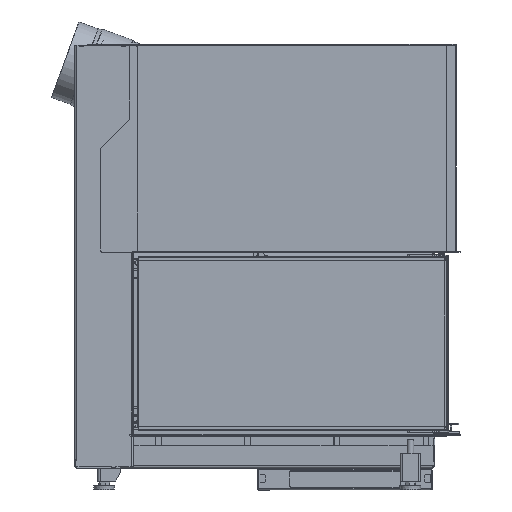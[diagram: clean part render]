
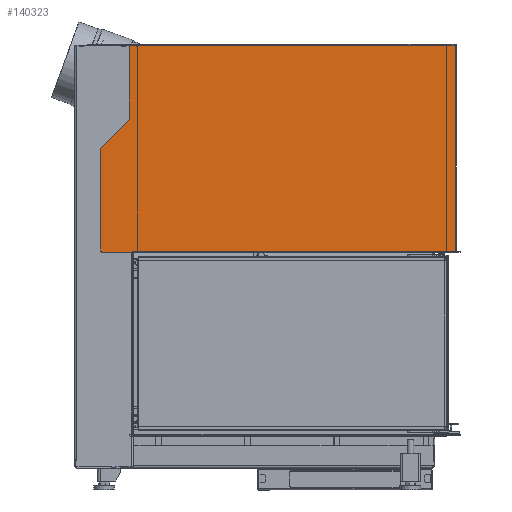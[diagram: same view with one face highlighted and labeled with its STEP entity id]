
A CAD part, left-side view. The second image highlights one B-rep face of the part: STEP entity #140323.
In plain terms, the highlighted planar face has unit normal (-1, 0, 0).
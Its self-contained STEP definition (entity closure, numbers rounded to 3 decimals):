
#2716=CIRCLE('',#149081,3.);
#2717=CIRCLE('',#149082,1.);
#2718=CIRCLE('',#149083,0.1);
#2719=CIRCLE('',#149084,3.);
#2720=CIRCLE('',#149085,3.);
#2721=CIRCLE('',#149086,0.1);
#2722=CIRCLE('',#149087,3.);
#2723=CIRCLE('',#149088,3.);
#7767=PLANE('',#149080);
#16175=FACE_OUTER_BOUND('',#23909,.T.);
#23909=EDGE_LOOP('',(#100494,#100495,#100496,#100497,#100498,#100499,#100500,
#100501,#100502,#100503,#100504,#100505,#100506,#100507,#100508,#100509,
#100510,#100511,#100512));
#33736=LINE('',#211772,#47788);
#33737=LINE('',#211776,#47789);
#33738=LINE('',#211780,#47790);
#33739=LINE('',#211782,#47791);
#33740=LINE('',#211784,#47792);
#33741=LINE('',#211788,#47793);
#33742=LINE('',#211794,#47794);
#33743=LINE('',#211796,#47795);
#33744=LINE('',#211798,#47796);
#33745=LINE('',#211802,#47797);
#33746=LINE('',#211805,#47798);
#47788=VECTOR('',#166727,10.);
#47789=VECTOR('',#166730,10.);
#47790=VECTOR('',#166733,10.);
#47791=VECTOR('',#166734,10.);
#47792=VECTOR('',#166735,10.);
#47793=VECTOR('',#166738,10.);
#47794=VECTOR('',#166743,10.);
#47795=VECTOR('',#166744,10.);
#47796=VECTOR('',#166745,10.);
#47797=VECTOR('',#166748,10.);
#47798=VECTOR('',#166751,10.);
#61975=VERTEX_POINT('',#211768);
#61976=VERTEX_POINT('',#211769);
#61977=VERTEX_POINT('',#211771);
#61978=VERTEX_POINT('',#211773);
#61979=VERTEX_POINT('',#211775);
#61980=VERTEX_POINT('',#211777);
#61981=VERTEX_POINT('',#211779);
#61982=VERTEX_POINT('',#211781);
#61983=VERTEX_POINT('',#211783);
#61984=VERTEX_POINT('',#211785);
#61985=VERTEX_POINT('',#211787);
#61986=VERTEX_POINT('',#211789);
#61987=VERTEX_POINT('',#211791);
#61988=VERTEX_POINT('',#211793);
#61989=VERTEX_POINT('',#211795);
#61990=VERTEX_POINT('',#211797);
#61991=VERTEX_POINT('',#211799);
#61992=VERTEX_POINT('',#211801);
#61993=VERTEX_POINT('',#211803);
#76435=EDGE_CURVE('',#61975,#61976,#2716,.T.);
#76436=EDGE_CURVE('',#61977,#61975,#33736,.T.);
#76437=EDGE_CURVE('',#61978,#61977,#2717,.T.);
#76438=EDGE_CURVE('',#61978,#61979,#33737,.T.);
#76439=EDGE_CURVE('',#61979,#61980,#2718,.T.);
#76440=EDGE_CURVE('',#61980,#61981,#33738,.T.);
#76441=EDGE_CURVE('',#61981,#61982,#33739,.T.);
#76442=EDGE_CURVE('',#61982,#61983,#33740,.T.);
#76443=EDGE_CURVE('',#61984,#61983,#2719,.T.);
#76444=EDGE_CURVE('',#61985,#61984,#33741,.T.);
#76445=EDGE_CURVE('',#61986,#61985,#2720,.T.);
#76446=EDGE_CURVE('',#61986,#61987,#2721,.T.);
#76447=EDGE_CURVE('',#61987,#61988,#33742,.T.);
#76448=EDGE_CURVE('',#61989,#61988,#33743,.T.);
#76449=EDGE_CURVE('',#61990,#61989,#33744,.T.);
#76450=EDGE_CURVE('',#61991,#61990,#2722,.T.);
#76451=EDGE_CURVE('',#61991,#61992,#33745,.T.);
#76452=EDGE_CURVE('',#61993,#61992,#2723,.T.);
#76453=EDGE_CURVE('',#61993,#61976,#33746,.T.);
#100494=ORIENTED_EDGE('',*,*,#76435,.F.);
#100495=ORIENTED_EDGE('',*,*,#76436,.F.);
#100496=ORIENTED_EDGE('',*,*,#76437,.F.);
#100497=ORIENTED_EDGE('',*,*,#76438,.T.);
#100498=ORIENTED_EDGE('',*,*,#76439,.T.);
#100499=ORIENTED_EDGE('',*,*,#76440,.T.);
#100500=ORIENTED_EDGE('',*,*,#76441,.T.);
#100501=ORIENTED_EDGE('',*,*,#76442,.T.);
#100502=ORIENTED_EDGE('',*,*,#76443,.F.);
#100503=ORIENTED_EDGE('',*,*,#76444,.F.);
#100504=ORIENTED_EDGE('',*,*,#76445,.F.);
#100505=ORIENTED_EDGE('',*,*,#76446,.T.);
#100506=ORIENTED_EDGE('',*,*,#76447,.T.);
#100507=ORIENTED_EDGE('',*,*,#76448,.F.);
#100508=ORIENTED_EDGE('',*,*,#76449,.F.);
#100509=ORIENTED_EDGE('',*,*,#76450,.F.);
#100510=ORIENTED_EDGE('',*,*,#76451,.T.);
#100511=ORIENTED_EDGE('',*,*,#76452,.F.);
#100512=ORIENTED_EDGE('',*,*,#76453,.T.);
#140323=ADVANCED_FACE('',(#16175),#7767,.T.);
#149080=AXIS2_PLACEMENT_3D('',#211767,#166723,#166724);
#149081=AXIS2_PLACEMENT_3D('',#211770,#166725,#166726);
#149082=AXIS2_PLACEMENT_3D('',#211774,#166728,#166729);
#149083=AXIS2_PLACEMENT_3D('',#211778,#166731,#166732);
#149084=AXIS2_PLACEMENT_3D('',#211786,#166736,#166737);
#149085=AXIS2_PLACEMENT_3D('',#211790,#166739,#166740);
#149086=AXIS2_PLACEMENT_3D('',#211792,#166741,#166742);
#149087=AXIS2_PLACEMENT_3D('',#211800,#166746,#166747);
#149088=AXIS2_PLACEMENT_3D('',#211804,#166749,#166750);
#166723=DIRECTION('center_axis',(-1.,0.,0.));
#166724=DIRECTION('ref_axis',(0.,-1.,0.));
#166725=DIRECTION('center_axis',(1.,0.,0.));
#166726=DIRECTION('ref_axis',(0.,0.707,-0.707));
#166727=DIRECTION('',(0.,1.,0.));
#166728=DIRECTION('center_axis',(1.,0.,0.));
#166729=DIRECTION('ref_axis',(0.,-0.707,-0.707));
#166730=DIRECTION('',(0.,0.,1.));
#166731=DIRECTION('center_axis',(1.,0.,0.));
#166732=DIRECTION('ref_axis',(0.,-1.,0.));
#166733=DIRECTION('',(0.,0.,-1.));
#166734=DIRECTION('',(0.,-1.,0.));
#166735=DIRECTION('',(0.,0.,1.));
#166736=DIRECTION('center_axis',(1.,0.,0.));
#166737=DIRECTION('ref_axis',(0.,-0.707,
0.707));
#166738=DIRECTION('',(0.,-1.,0.));
#166739=DIRECTION('center_axis',(1.,0.,0.));
#166740=DIRECTION('ref_axis',(0.,0.,
-1.));
#166741=DIRECTION('center_axis',(1.,0.,0.));
#166742=DIRECTION('ref_axis',(0.,1.,0.));
#166743=DIRECTION('',(0.,0.,1.));
#166744=DIRECTION('',(0.,-1.,0.));
#166745=DIRECTION('',(0.,0.,1.));
#166746=DIRECTION('center_axis',(-1.,0.,0.));
#166747=DIRECTION('ref_axis',(0.,-0.924,-0.383));
#166748=DIRECTION('',(0.,0.707,-0.707));
#166749=DIRECTION('center_axis',(1.,0.,0.));
#166750=DIRECTION('ref_axis',(0.,0.924,0.383));
#166751=DIRECTION('',(0.,0.,-1.));
#211767=CARTESIAN_POINT('Origin',(-270.,-93.496,839.941));
#211768=CARTESIAN_POINT('',(-270.,375.504,532.5));
#211769=CARTESIAN_POINT('',(-270.,378.504,535.5));
#211770=CARTESIAN_POINT('Origin',(-270.,375.504,535.5));
#211771=CARTESIAN_POINT('',(-270.,302.704,532.5));
#211772=CARTESIAN_POINT('',(-270.,-495.496,532.5));
#211773=CARTESIAN_POINT('',(-270.,301.704,533.5));
#211774=CARTESIAN_POINT('Origin',(-270.,302.704,533.5));
#211775=CARTESIAN_POINT('',(-270.,301.704,535.35));
#211776=CARTESIAN_POINT('',(-270.,301.704,687.646));
#211777=CARTESIAN_POINT('',(-270.,301.504,535.35));
#211778=CARTESIAN_POINT('Origin',(-270.,301.604,535.35));
#211779=CARTESIAN_POINT('',(-270.,301.504,535.25));
#211780=CARTESIAN_POINT('',(-270.,301.504,686.221));
#211781=CARTESIAN_POINT('',(-270.,-495.496,535.25));
#211782=CARTESIAN_POINT('',(-270.,-294.496,535.25));
#211783=CARTESIAN_POINT('',(-270.,-495.496,1039.25));
#211784=CARTESIAN_POINT('',(-270.,-495.496,532.5));
#211785=CARTESIAN_POINT('',(-270.,-492.496,1042.25));
#211786=CARTESIAN_POINT('Origin',(-270.,-492.496,1039.25));
#211787=CARTESIAN_POINT('',(-270.,-474.426,1042.25));
#211788=CARTESIAN_POINT('',(-270.,-93.496,1042.25));
#211789=CARTESIAN_POINT('',(-270.,-473.139,1041.96));
#211790=CARTESIAN_POINT('Origin',(-270.,-474.426,1039.25));
#211791=CARTESIAN_POINT('',(-270.,-472.996,1042.05));
#211792=CARTESIAN_POINT('Origin',(-270.,-473.096,1042.05));
#211793=CARTESIAN_POINT('',(-270.,-472.996,1042.25));
#211794=CARTESIAN_POINT('',(-270.,-472.996,941.096));
#211795=CARTESIAN_POINT('',(-270.,308.504,1042.25));
#211796=CARTESIAN_POINT('',(-270.,-93.496,1042.25));
#211797=CARTESIAN_POINT('',(-270.,308.504,860.743));
#211798=CARTESIAN_POINT('',(-270.,308.504,532.5));
#211799=CARTESIAN_POINT('',(-270.,309.383,858.621));
#211800=CARTESIAN_POINT('Origin',(-270.,311.504,860.743));
#211801=CARTESIAN_POINT('',(-270.,377.625,790.379));
#211802=CARTESIAN_POINT('',(-270.,212.894,955.11));
#211803=CARTESIAN_POINT('',(-270.,378.504,788.257));
#211804=CARTESIAN_POINT('Origin',(-270.,375.504,788.257));
#211805=CARTESIAN_POINT('',(-270.,378.504,859.5));
